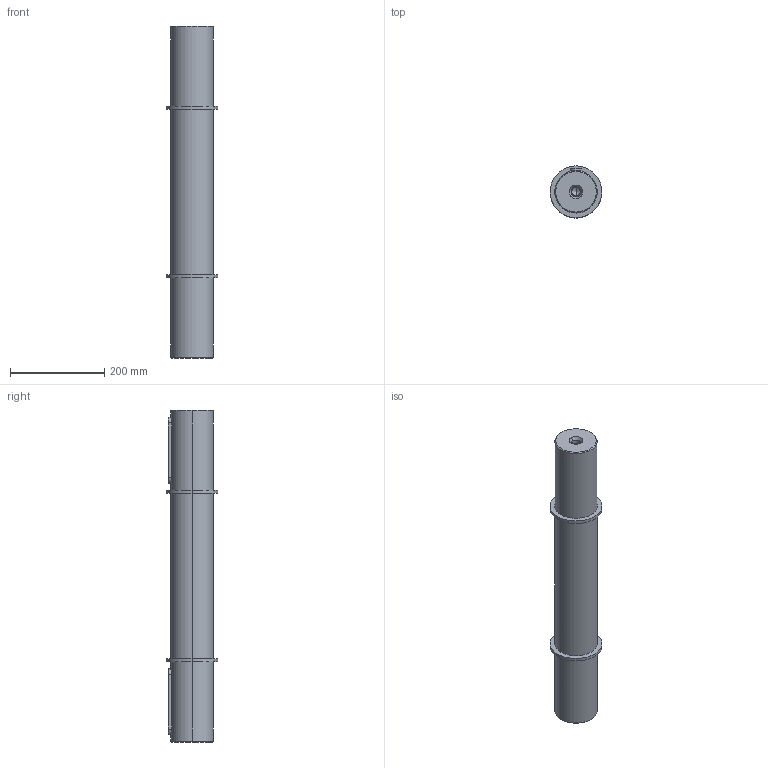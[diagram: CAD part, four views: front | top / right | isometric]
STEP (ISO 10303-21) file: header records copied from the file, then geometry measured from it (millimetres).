
FILE_DESCRIPTION(/* description */ (''),/* implementation_level */ '2;1');
FILE_NAME(/* name */ '5_ALBERO LENTO BISPORGENTE B153',/* time_stamp */ '2025-10-22T11:34:25+02:00',/* author */ (''),/* organization */ (''),/* preprocessor_version */ 'ST-DEVELOPER v19.2',/* originating_system */ 'Rhino 8.23',/* authorisation */ '');
FILE_SCHEMA (('CONFIG_CONTROL_DESIGN'));
Length unit declared in the file: millimetre
Products named in the file (2): Document; Albero 90x170-(1532)
Bounding box: 110 x 110 x 703 mm (x, y, z)
Volume: 4519034.1 mm3; surface area: 233984.6 mm2
Topology: 1 solids, 1 shells, 52 faces, 111 edges, 67 vertices
Faces by surface type: cylinder 22, bspline 16, plane 14
Entity records: 1749 total; most frequent: CARTESIAN_POINT 574, ORIENTED_EDGE 214, DIRECTION 150, EDGE_CURVE 107, AXIS2_PLACEMENT_3D 93, VERTEX_POINT 67, EDGE_LOOP 62, B_SPLINE_CURVE_WITH_KNOTS 54
